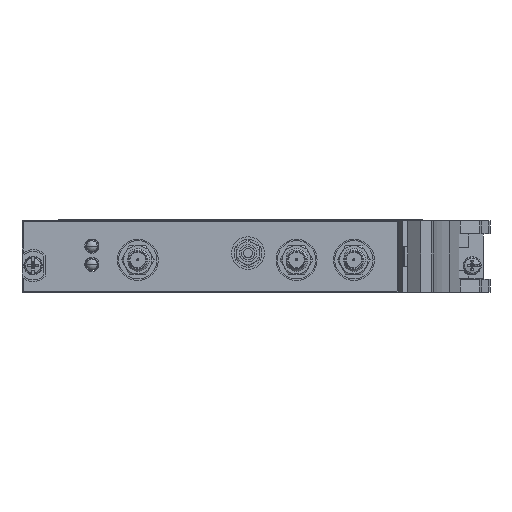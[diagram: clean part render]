
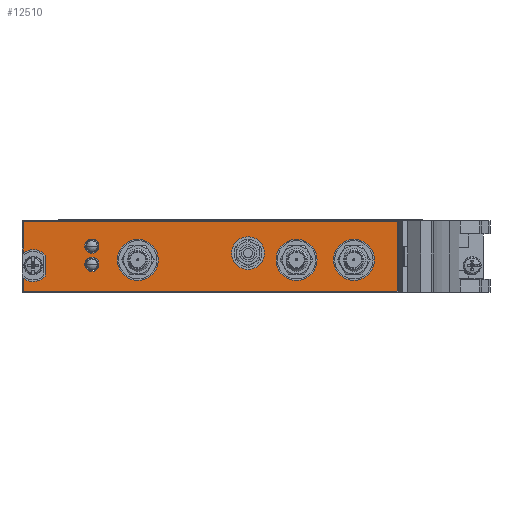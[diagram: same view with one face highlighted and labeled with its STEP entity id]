
A CAD part, left-side view. The second image highlights one B-rep face of the part: STEP entity #12510.
In plain terms, the highlighted planar face has unit normal (-1, 0, 0).
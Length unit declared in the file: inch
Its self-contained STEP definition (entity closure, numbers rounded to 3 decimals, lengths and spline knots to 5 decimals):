
#3757=CARTESIAN_POINT('',(-0.21987,0.531,0.665));
#3758=DIRECTION('',(-1.,0.,0.));
#3759=DIRECTION('',(0.,0.,1.));
#3760=AXIS2_PLACEMENT_3D('',#3757,#3758,#3759);
#3762=DIRECTION('',(0.,1.,0.));
#3763=VECTOR('',#3762,4.07);
#3764=CARTESIAN_POINT('',(-0.21987,-3.539,0.685));
#3765=LINE('',#3764,#3763);
#3766=CARTESIAN_POINT('',(-0.21987,-3.539,0.665));
#3767=DIRECTION('',(-1.,0.,0.));
#3768=DIRECTION('',(0.,-1.,0.));
#3769=AXIS2_PLACEMENT_3D('',#3766,#3767,#3768);
#3771=DIRECTION('',(0.,0.,1.));
#3772=VECTOR('',#3771,0.728);
#3773=CARTESIAN_POINT('',(-0.21987,-3.559,-0.063));
#3774=LINE('',#3773,#3772);
#3775=CARTESIAN_POINT('',(-0.21987,-3.539,-0.063));
#3776=DIRECTION('',(-1.,0.,0.));
#3777=DIRECTION('',(0.,0.,-1.));
#3778=AXIS2_PLACEMENT_3D('',#3775,#3776,#3777);
#3780=DIRECTION('',(0.,-1.,0.));
#3781=VECTOR('',#3780,4.07);
#3782=CARTESIAN_POINT('',(-0.21987,0.531,-0.083));
#3783=LINE('',#3782,#3781);
#3784=CARTESIAN_POINT('',(-0.21987,0.531,-0.063));
#3785=DIRECTION('',(-1.,0.,0.));
#3786=DIRECTION('',(0.,1.,0.));
#3787=AXIS2_PLACEMENT_3D('',#3784,#3785,#3786);
#3789=DIRECTION('',(0.,0.,-1.));
#3790=VECTOR('',#3789,0.1263);
#3791=CARTESIAN_POINT('',(-0.21987,0.551,0.0633));
#3792=LINE('',#3791,#3790);
#3793=CARTESIAN_POINT('',(-0.21987,0.443,0.201));
#3794=DIRECTION('',(1.,0.,0.));
#3795=DIRECTION('',(0.,-0.76,-0.65));
#3796=AXIS2_PLACEMENT_3D('',#3793,#3794,#3795);
#3798=DIRECTION('',(0.,0.,-1.));
#3799=VECTOR('',#3798,0.22747);
#3800=CARTESIAN_POINT('',(-0.21987,0.31,0.31474));
#3801=LINE('',#3800,#3799);
#3802=CARTESIAN_POINT('',(-0.21987,0.443,0.201));
#3803=DIRECTION('',(1.,0.,0.));
#3804=DIRECTION('',(0.,0.617,0.787));
#3805=AXIS2_PLACEMENT_3D('',#3802,#3803,#3804);
#3807=DIRECTION('',(0.,0.,-1.));
#3808=VECTOR('',#3807,0.3263);
#3809=CARTESIAN_POINT('',(-0.21987,0.551,0.665));
#3810=LINE('',#3809,#3808);
#3811=CARTESIAN_POINT('',(-0.21987,-0.20164,0.41476));
#3812=DIRECTION('',(-1.,0.,0.));
#3813=DIRECTION('',(0.,0.,1.));
#3814=AXIS2_PLACEMENT_3D('',#3811,#3812,#3813);
#3816=CARTESIAN_POINT('',(-0.21987,-0.20164,0.41476));
#3817=DIRECTION('',(-1.,0.,0.));
#3818=DIRECTION('',(0.,0.,-1.));
#3819=AXIS2_PLACEMENT_3D('',#3816,#3817,#3818);
#3821=CARTESIAN_POINT('',(-0.21987,-0.20164,0.21476));
#3822=DIRECTION('',(-1.,0.,0.));
#3823=DIRECTION('',(0.,0.,1.));
#3824=AXIS2_PLACEMENT_3D('',#3821,#3822,#3823);
#3826=CARTESIAN_POINT('',(-0.21987,-0.20164,0.21476));
#3827=DIRECTION('',(-1.,0.,0.));
#3828=DIRECTION('',(0.,0.,-1.));
#3829=AXIS2_PLACEMENT_3D('',#3826,#3827,#3828);
#3831=CARTESIAN_POINT('',(-0.21987,-0.70614,0.26476));
#3832=DIRECTION('',(-1.,0.,0.));
#3833=DIRECTION('',(0.,0.,1.));
#3834=AXIS2_PLACEMENT_3D('',#3831,#3832,#3833);
#3836=CARTESIAN_POINT('',(-0.21987,-0.70614,0.26476));
#3837=DIRECTION('',(-1.,0.,0.));
#3838=DIRECTION('',(0.,0.,-1.));
#3839=AXIS2_PLACEMENT_3D('',#3836,#3837,#3838);
#3841=CARTESIAN_POINT('',(-0.21987,-2.44864,0.26476));
#3842=DIRECTION('',(-1.,0.,0.));
#3843=DIRECTION('',(0.,0.,1.));
#3844=AXIS2_PLACEMENT_3D('',#3841,#3842,#3843);
#3846=CARTESIAN_POINT('',(-0.21987,-2.44864,0.26476));
#3847=DIRECTION('',(-1.,0.,0.));
#3848=DIRECTION('',(0.,0.,-1.));
#3849=AXIS2_PLACEMENT_3D('',#3846,#3847,#3848);
#3851=CARTESIAN_POINT('',(-0.21987,-3.07864,0.26476));
#3852=DIRECTION('',(-1.,0.,0.));
#3853=DIRECTION('',(0.,0.,1.));
#3854=AXIS2_PLACEMENT_3D('',#3851,#3852,#3853);
#3856=CARTESIAN_POINT('',(-0.21987,-3.07864,0.26476));
#3857=DIRECTION('',(-1.,0.,0.));
#3858=DIRECTION('',(0.,0.,-1.));
#3859=AXIS2_PLACEMENT_3D('',#3856,#3857,#3858);
#3861=CARTESIAN_POINT('',(-0.21987,-1.91664,0.33776));
#3862=DIRECTION('',(-1.,0.,0.));
#3863=DIRECTION('',(0.,0.,1.));
#3864=AXIS2_PLACEMENT_3D('',#3861,#3862,#3863);
#3866=CARTESIAN_POINT('',(-0.21987,-1.91664,0.33776));
#3867=DIRECTION('',(-1.,0.,0.));
#3868=DIRECTION('',(0.,0.,-1.));
#3869=AXIS2_PLACEMENT_3D('',#3866,#3867,#3868);
#6733=CARTESIAN_POINT('',(-0.21987,0.531,0.685));
#6734=CARTESIAN_POINT('',(-0.21987,0.551,0.665));
#6735=VERTEX_POINT('',#6733);
#6736=VERTEX_POINT('',#6734);
#6737=CARTESIAN_POINT('',(-0.21987,0.551,0.3387));
#6738=VERTEX_POINT('',#6737);
#6739=CARTESIAN_POINT('',(-0.21987,0.31,0.31474));
#6740=VERTEX_POINT('',#6739);
#6741=CARTESIAN_POINT('',(-0.21987,0.31,0.08726));
#6742=VERTEX_POINT('',#6741);
#6743=CARTESIAN_POINT('',(-0.21987,0.551,0.0633));
#6744=VERTEX_POINT('',#6743);
#6745=CARTESIAN_POINT('',(-0.21987,0.551,-0.063));
#6746=VERTEX_POINT('',#6745);
#6747=CARTESIAN_POINT('',(-0.21987,0.531,-0.083));
#6748=VERTEX_POINT('',#6747);
#6749=CARTESIAN_POINT('',(-0.21987,-3.539,-0.083));
#6750=VERTEX_POINT('',#6749);
#6751=CARTESIAN_POINT('',(-0.21987,-3.559,-0.063));
#6752=VERTEX_POINT('',#6751);
#6753=CARTESIAN_POINT('',(-0.21987,-3.559,0.665));
#6754=VERTEX_POINT('',#6753);
#6755=CARTESIAN_POINT('',(-0.21987,-3.539,0.685));
#6756=VERTEX_POINT('',#6755);
#6757=CARTESIAN_POINT('',(-0.21987,-0.70614,0.48976));
#6758=CARTESIAN_POINT('',(-0.21987,-0.70614,0.03976));
#6759=VERTEX_POINT('',#6757);
#6760=VERTEX_POINT('',#6758);
#6761=CARTESIAN_POINT('',(-0.21987,-2.44864,0.48976));
#6762=CARTESIAN_POINT('',(-0.21987,-2.44864,0.03976));
#6763=VERTEX_POINT('',#6761);
#6764=VERTEX_POINT('',#6762);
#6765=CARTESIAN_POINT('',(-0.21987,-3.07864,0.48976));
#6766=CARTESIAN_POINT('',(-0.21987,-3.07864,0.03976));
#6767=VERTEX_POINT('',#6765);
#6768=VERTEX_POINT('',#6766);
#6769=CARTESIAN_POINT('',(-0.21987,-1.91664,0.51776));
#6770=CARTESIAN_POINT('',(-0.21987,-1.91664,0.15776));
#6771=VERTEX_POINT('',#6769);
#6772=VERTEX_POINT('',#6770);
#6773=CARTESIAN_POINT('',(-0.21987,-0.20164,0.49326));
#6774=CARTESIAN_POINT('',(-0.21987,-0.20164,0.33626));
#6775=VERTEX_POINT('',#6773);
#6776=VERTEX_POINT('',#6774);
#6777=CARTESIAN_POINT('',(-0.21987,-0.20164,0.29326));
#6778=CARTESIAN_POINT('',(-0.21987,-0.20164,0.13626));
#6779=VERTEX_POINT('',#6777);
#6780=VERTEX_POINT('',#6778);
#12446=CARTESIAN_POINT('',(-0.21987,0.443,0.201));
#12447=DIRECTION('',(-1.,0.,0.));
#12448=DIRECTION('',(0.,0.,1.));
#12449=AXIS2_PLACEMENT_3D('',#12446,#12447,#12448);
#12450=PLANE('',#12449);
#12451=ORIENTED_EDGE('',*,*,#7584,.F.);
#12453=ORIENTED_EDGE('',*,*,#12452,.F.);
#12455=ORIENTED_EDGE('',*,*,#12454,.F.);
#12457=ORIENTED_EDGE('',*,*,#12456,.F.);
#12459=ORIENTED_EDGE('',*,*,#12458,.F.);
#12461=ORIENTED_EDGE('',*,*,#12460,.F.);
#12463=ORIENTED_EDGE('',*,*,#12462,.F.);
#12465=ORIENTED_EDGE('',*,*,#12464,.F.);
#12467=ORIENTED_EDGE('',*,*,#12466,.F.);
#12469=ORIENTED_EDGE('',*,*,#12468,.F.);
#12471=ORIENTED_EDGE('',*,*,#12470,.F.);
#12473=ORIENTED_EDGE('',*,*,#12472,.F.);
#12474=EDGE_LOOP('',(#12451,#12453,#12455,#12457,#12459,#12461,#12463,#12465,
#12467,#12469,#12471,#12473));
#12475=FACE_OUTER_BOUND('',#12474,.F.);
#12476=ORIENTED_EDGE('',*,*,#12426,.T.);
#12477=ORIENTED_EDGE('',*,*,#12440,.T.);
#12478=EDGE_LOOP('',(#12476,#12477));
#12479=FACE_BOUND('',#12478,.F.);
#12481=ORIENTED_EDGE('',*,*,#12480,.T.);
#12483=ORIENTED_EDGE('',*,*,#12482,.T.);
#12484=EDGE_LOOP('',(#12481,#12483));
#12485=FACE_BOUND('',#12484,.F.);
#12487=ORIENTED_EDGE('',*,*,#12486,.T.);
#12489=ORIENTED_EDGE('',*,*,#12488,.T.);
#12490=EDGE_LOOP('',(#12487,#12489));
#12491=FACE_BOUND('',#12490,.F.);
#12493=ORIENTED_EDGE('',*,*,#12492,.T.);
#12495=ORIENTED_EDGE('',*,*,#12494,.T.);
#12496=EDGE_LOOP('',(#12493,#12495));
#12497=FACE_BOUND('',#12496,.F.);
#12499=ORIENTED_EDGE('',*,*,#12498,.T.);
#12501=ORIENTED_EDGE('',*,*,#12500,.T.);
#12502=EDGE_LOOP('',(#12499,#12501));
#12503=FACE_BOUND('',#12502,.F.);
#12505=ORIENTED_EDGE('',*,*,#12504,.T.);
#12507=ORIENTED_EDGE('',*,*,#12506,.T.);
#12508=EDGE_LOOP('',(#12505,#12507));
#12509=FACE_BOUND('',#12508,.F.);
#12510=ADVANCED_FACE('',(#12475,#12479,#12485,#12491,#12497,#12503,#12509),
#12450,.T.);
#3761=CIRCLE('',#3760,0.02);
#3770=CIRCLE('',#3769,0.02);
#3779=CIRCLE('',#3778,0.02);
#3788=CIRCLE('',#3787,0.02);
#3797=CIRCLE('',#3796,0.175);
#3806=CIRCLE('',#3805,0.175);
#3815=CIRCLE('',#3814,0.0785);
#3820=CIRCLE('',#3819,0.0785);
#3825=CIRCLE('',#3824,0.0785);
#3830=CIRCLE('',#3829,0.0785);
#3835=CIRCLE('',#3834,0.225);
#3840=CIRCLE('',#3839,0.225);
#3845=CIRCLE('',#3844,0.225);
#3850=CIRCLE('',#3849,0.225);
#3855=CIRCLE('',#3854,0.225);
#3860=CIRCLE('',#3859,0.225);
#3865=CIRCLE('',#3864,0.18);
#3870=CIRCLE('',#3869,0.18);
#7584=EDGE_CURVE('',#6735,#6736,#3761,.T.);
#12426=EDGE_CURVE('',#6775,#6776,#3815,.T.);
#12440=EDGE_CURVE('',#6776,#6775,#3820,.T.);
#12452=EDGE_CURVE('',#6756,#6735,#3765,.T.);
#12454=EDGE_CURVE('',#6754,#6756,#3770,.T.);
#12456=EDGE_CURVE('',#6752,#6754,#3774,.T.);
#12458=EDGE_CURVE('',#6750,#6752,#3779,.T.);
#12460=EDGE_CURVE('',#6748,#6750,#3783,.T.);
#12462=EDGE_CURVE('',#6746,#6748,#3788,.T.);
#12464=EDGE_CURVE('',#6744,#6746,#3792,.T.);
#12466=EDGE_CURVE('',#6742,#6744,#3797,.T.);
#12468=EDGE_CURVE('',#6740,#6742,#3801,.T.);
#12470=EDGE_CURVE('',#6738,#6740,#3806,.T.);
#12472=EDGE_CURVE('',#6736,#6738,#3810,.T.);
#12480=EDGE_CURVE('',#6779,#6780,#3825,.T.);
#12482=EDGE_CURVE('',#6780,#6779,#3830,.T.);
#12486=EDGE_CURVE('',#6759,#6760,#3835,.T.);
#12488=EDGE_CURVE('',#6760,#6759,#3840,.T.);
#12492=EDGE_CURVE('',#6763,#6764,#3845,.T.);
#12494=EDGE_CURVE('',#6764,#6763,#3850,.T.);
#12498=EDGE_CURVE('',#6767,#6768,#3855,.T.);
#12500=EDGE_CURVE('',#6768,#6767,#3860,.T.);
#12504=EDGE_CURVE('',#6771,#6772,#3865,.T.);
#12506=EDGE_CURVE('',#6772,#6771,#3870,.T.);
